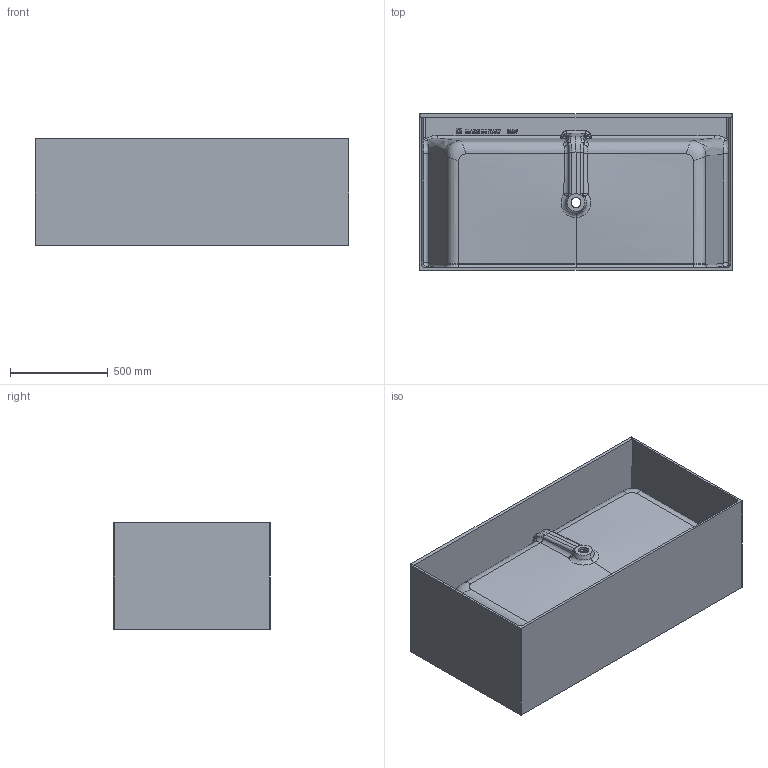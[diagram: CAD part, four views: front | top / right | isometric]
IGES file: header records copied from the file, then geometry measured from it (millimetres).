
Start section: Data from Parasolid IGES Translator 22.0.50, Copyright(c) 2006 Siemens P LM Software. All Rights Reserved.
Global section: file name: noorth-bathtub-H54 D80 W160_5675.igs; native system: By Siemens PLM Incorporated; preprocessor: XPlus GENERIC/IGES 22.0.50; author: Noname; organization: Noname; date: 20250706.154608; units: metre
Bounding box: 1599.99 x 800 x 542 mm (x, y, z)
Volume: 81607539 mm3; surface area: 9132976.8 mm2
Topology: 2 solids, 2 shells, 436 faces, 1123 edges, 714 vertices
Faces by surface type: plane 219, bspline 174, cylinder 39, cone 3, torus 1
Full cylindrical faces by diameter (mm): 51 x1
